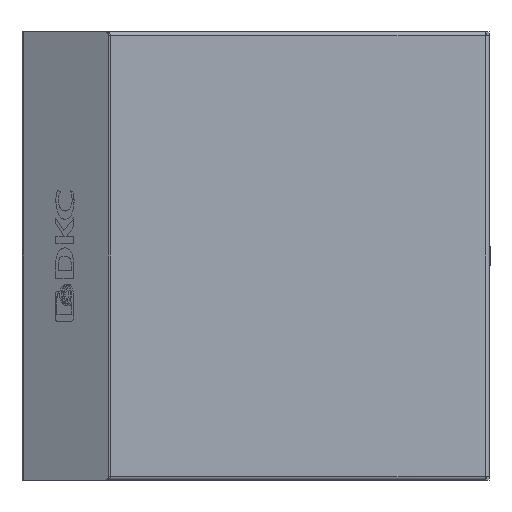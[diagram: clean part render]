
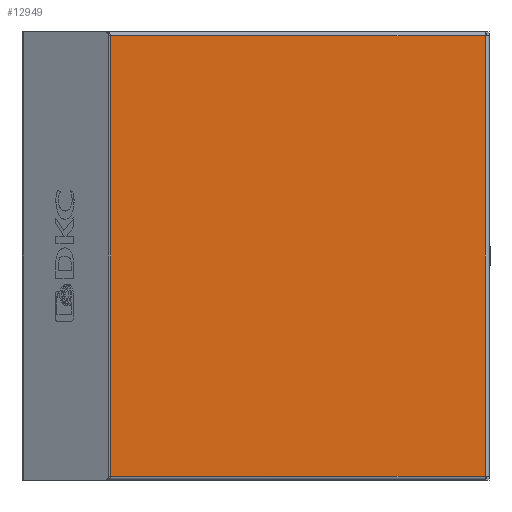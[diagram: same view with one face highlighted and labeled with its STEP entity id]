
A CAD part, left-side view. The second image highlights one B-rep face of the part: STEP entity #12949.
In plain terms, the highlighted planar face has unit normal (-1, 0, 0).
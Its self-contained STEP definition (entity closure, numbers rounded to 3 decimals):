
#120 = CARTESIAN_POINT ( 'NONE',  ( -1.5, 201.113, 117.9 ) ) ;
#274 = VECTOR ( 'NONE', #9276, 1000. ) ;
#367 = ORIENTED_EDGE ( 'NONE', *, *, #11087, .T. ) ;
#705 = PLANE ( 'NONE',  #1661 ) ;
#1661 = AXIS2_PLACEMENT_3D ( 'NONE', #13240, #5019, #5004 ) ;
#1711 = EDGE_CURVE ( 'NONE', #13850, #8082, #5902, .T. ) ;
#2683 = CARTESIAN_POINT ( 'NONE',  ( -1.5, 0.6, 120. ) ) ;
#2693 = LINE ( 'NONE', #2683, #274 ) ;
#3004 = EDGE_LOOP ( 'NONE', ( #367, #8618, #3231, #13942 ) ) ;
#3231 = ORIENTED_EDGE ( 'NONE', *, *, #5829, .T. ) ;
#3700 = VERTEX_POINT ( 'NONE', #9028 ) ;
#4006 = DIRECTION ( 'NONE',  ( 0., 1., 0. ) ) ;
#4027 = CARTESIAN_POINT ( 'NONE',  ( -1.5, 0.6, 117.9 ) ) ;
#4040 = LINE ( 'NONE', #4027, #10316 ) ;
#4543 = CARTESIAN_POINT ( 'NONE',  ( -1.5, 0.6, 117.9 ) ) ;
#5004 = DIRECTION ( 'NONE',  ( 0., 1., 0. ) ) ;
#5019 = DIRECTION ( 'NONE',  ( 1., 0., 0. ) ) ;
#5024 = FACE_OUTER_BOUND ( 'NONE', #3004, .T. ) ;
#5829 = EDGE_CURVE ( 'NONE', #13039, #13850, #4040, .T. ) ;
#5870 = DIRECTION ( 'NONE',  ( 0., 0., -1. ) ) ;
#5885 = CARTESIAN_POINT ( 'NONE',  ( -1.5, 201.113, 120. ) ) ;
#5902 = LINE ( 'NONE', #5885, #7831 ) ;
#6136 = CARTESIAN_POINT ( 'NONE',  ( -1.5, 202.152, -117.9 ) ) ;
#7751 = VECTOR ( 'NONE', #13212, 1000. ) ;
#7831 = VECTOR ( 'NONE', #5870, 1000. ) ;
#8082 = VERTEX_POINT ( 'NONE', #12771 ) ;
#8618 = ORIENTED_EDGE ( 'NONE', *, *, #10178, .F. ) ;
#9028 = CARTESIAN_POINT ( 'NONE',  ( -1.5, 0.6, -117.9 ) ) ;
#9276 = DIRECTION ( 'NONE',  ( 0., 0., -1. ) ) ;
#10178 = EDGE_CURVE ( 'NONE', #13039, #3700, #2693, .T. ) ;
#10316 = VECTOR ( 'NONE', #4006, 1000. ) ;
#10704 = LINE ( 'NONE', #6136, #7751 ) ;
#11087 = EDGE_CURVE ( 'NONE', #8082, #3700, #10704, .T. ) ;
#12771 = CARTESIAN_POINT ( 'NONE',  ( -1.5, 201.113, -117.9 ) ) ;
#12949 = ADVANCED_FACE ( 'NONE', ( #5024 ), #705, .F. ) ;
#13039 = VERTEX_POINT ( 'NONE', #4543 ) ;
#13212 = DIRECTION ( 'NONE',  ( 0., -1., 0. ) ) ;
#13240 = CARTESIAN_POINT ( 'NONE',  ( -1.5, 0., 120. ) ) ;
#13850 = VERTEX_POINT ( 'NONE', #120 ) ;
#13942 = ORIENTED_EDGE ( 'NONE', *, *, #1711, .T. ) ;
